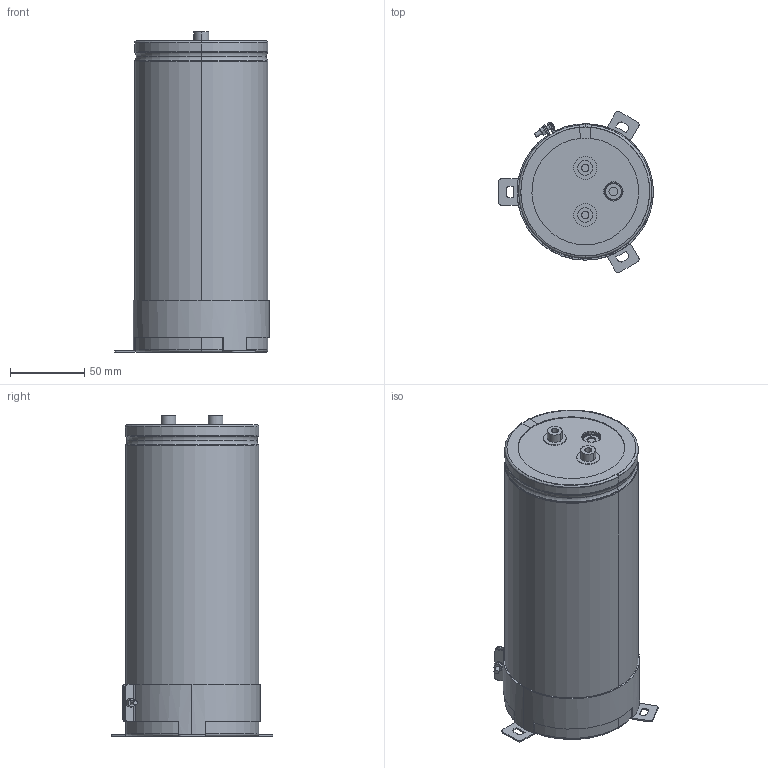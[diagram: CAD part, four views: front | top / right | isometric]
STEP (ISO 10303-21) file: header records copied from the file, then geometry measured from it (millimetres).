
FILE_DESCRIPTION(('STEP AP214'),'1');
FILE_NAME('90x210_Screw.stp','2022-03-14T08:45:37',(' '),(' '),'Spatial InterOp 3D',' ',' ');
FILE_SCHEMA(('AUTOMOTIVE_DESIGN { 1 0 10303 214 1 1 1 1 }'));
Length unit declared in the file: metre
Products named in the file (10): 90x210_Screw; Component1; Component2; Component3; Component4; Component5; Component6; Component7; Component8; Component9
Assembly tree (9 placements, depth 2):
  90x210_Screw
    Component1
    Component2
    Component3
    Component4
    Component5
    Component6
    Component7
    Component8
    Component9
Bounding box: 104.5 x 108.86 x 216 mm (x, y, z)
Volume: 1338522.6 mm3; surface area: 217292.9 mm2
Topology: 9 solids, 9 shells, 352 faces, 873 edges, 551 vertices
Faces by surface type: plane 112, cylinder 110, torus 90, cone 38, sphere 2
Entity records: 11474 total; most frequent: DIRECTION 2126, CARTESIAN_POINT 1918, ORIENTED_EDGE 1746, AXIS2_PLACEMENT_3D 919, EDGE_CURVE 873, VERTEX_POINT 551, CIRCLE 511, EDGE_LOOP 380
